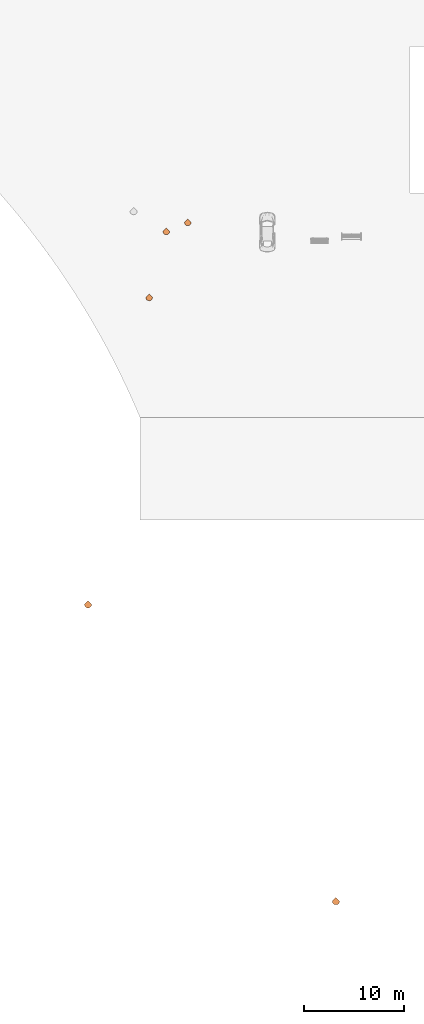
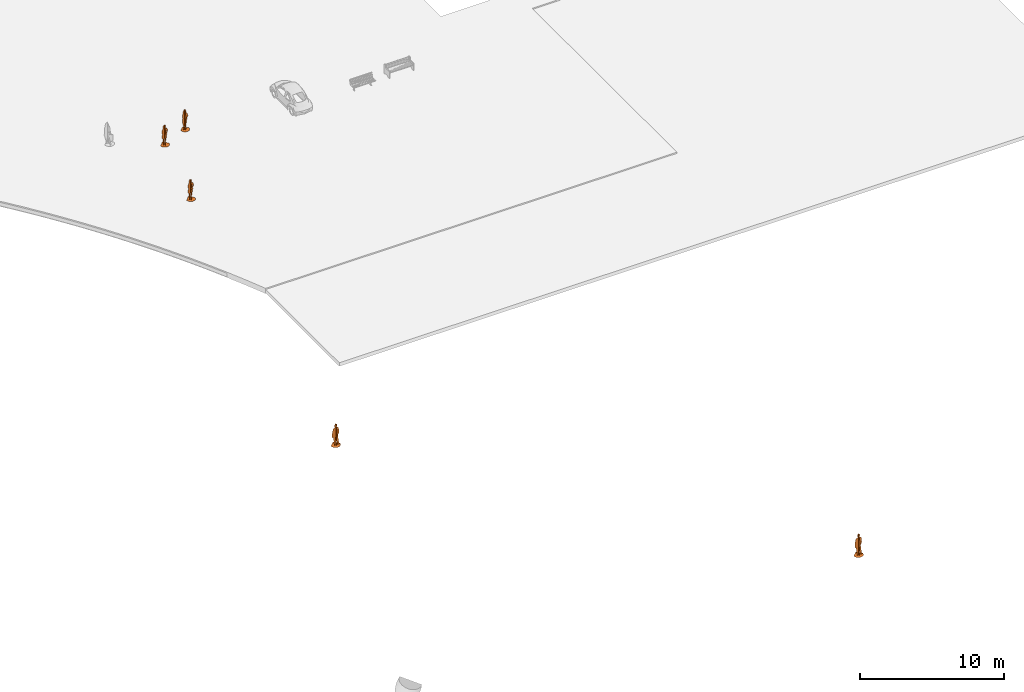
# One storey, part 2 of 6: 5 proxies.
"""IFC2X3 building model written with IfcOpenShell, lengths in millimetres."""

from ifc_helpers import new_model, entity, si_unit, converted_unit, derived_unit, direction, frame, origin, place, context, subcontext, project, spatial, face_set, surface_model, source, transform, mapped, type_object, type_shapes, element, save


model = new_model("IFC2X3")

# Units and contexts
model_context = context("Model", 3, precision=0.01, world=origin(), true_north=direction((6.12303176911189e-17, 1.0)))
body_context = subcontext(model_context, "Body", "Model", "MODEL_VIEW")
ifc_project = project(units=[si_unit("LENGTHUNIT", "METRE", prefix="MILLI"), si_unit("AREAUNIT", "SQUARE_METRE"), si_unit("VOLUMEUNIT", "CUBIC_METRE"), converted_unit("PLANEANGLEUNIT", "DEGREE", entity("IfcRatioMeasure", 0.0174532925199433), si_unit("PLANEANGLEUNIT", "RADIAN"), dimensions=[0, 0, 0, 0, 0, 0, 0]), si_unit("MASSUNIT", "GRAM", prefix="KILO"), derived_unit("MASSDENSITYUNIT", [(si_unit("MASSUNIT", "GRAM", prefix="KILO"), 1), (si_unit("LENGTHUNIT", "METRE"), -3)]), si_unit("TIMEUNIT", "SECOND"), si_unit("FREQUENCYUNIT", "HERTZ"), si_unit("THERMODYNAMICTEMPERATUREUNIT", "DEGREE_CELSIUS"), derived_unit("THERMALTRANSMITTANCEUNIT", [(si_unit("MASSUNIT", "GRAM", prefix="KILO"), 1), (si_unit("THERMODYNAMICTEMPERATUREUNIT", "KELVIN"), -1), (si_unit("TIMEUNIT", "SECOND"), -3)]), derived_unit("VOLUMETRICFLOWRATEUNIT", [(si_unit("LENGTHUNIT", "METRE"), 3), (si_unit("TIMEUNIT", "SECOND"), -1)]), si_unit("ELECTRICCURRENTUNIT", "AMPERE"), si_unit("ELECTRICVOLTAGEUNIT", "VOLT"), si_unit("POWERUNIT", "WATT"), si_unit("FORCEUNIT", "NEWTON", prefix="KILO"), si_unit("ILLUMINANCEUNIT", "LUX"), si_unit("LUMINOUSFLUXUNIT", "LUMEN"), si_unit("LUMINOUSINTENSITYUNIT", "CANDELA"), derived_unit("USERDEFINED", [(si_unit("MASSUNIT", "GRAM", prefix="KILO"), -1), (si_unit("LENGTHUNIT", "METRE"), -2), (si_unit("TIMEUNIT", "SECOND"), 3), (si_unit("LUMINOUSFLUXUNIT", "LUMEN"), 1)]), derived_unit("LINEARVELOCITYUNIT", [(si_unit("LENGTHUNIT", "METRE"), 1), (si_unit("TIMEUNIT", "SECOND"), -1)]), si_unit("PRESSUREUNIT", "PASCAL"), derived_unit("USERDEFINED", [(si_unit("LENGTHUNIT", "METRE"), -2), (si_unit("MASSUNIT", "GRAM", prefix="KILO"), 1), (si_unit("TIMEUNIT", "SECOND"), -2)])], contexts=[model_context])

# Site, building, storey
site_placement = place(None, origin())
site = spatial("IfcSite", under=ifc_project, at=site_placement, Name="表面", CompositionType="ELEMENT")
building_placement = place(site_placement, origin())
building = spatial("IfcBuilding", under=site, at=building_placement, CompositionType="ELEMENT")
storey_placement = place(building_placement, frame((0.0, 0.0, -450.0)))
storey = spatial("IfcBuildingStorey", under=building, at=storey_placement, Name="室外地坪", CompositionType="ELEMENT", Elevation=-449.999999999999)

# Proxies
building_element_proxy_type_1 = type_object("IfcBuildingElementProxyType", Name="佛罗伦萨", PredefinedType="NOTDEFINED")
shared_shape_1 = source(origin(), body_context, "Body", "SurfaceModel", [
    surface_model("IfcFaceBasedSurfaceModel", [(334.103734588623, 2.92082768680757e-05, 4.67019758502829e-05), (-4.38124185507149e-05, 334.103734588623, 4.67019758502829e-05), (-334.103734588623, 0.0, 4.67019758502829e-05), (325.2710978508, -76.5544387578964, 4.67019758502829e-05), (-325.2710978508, -76.5544841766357, 4.67019758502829e-05), (300.115892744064, -146.857487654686, 4.67019758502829e-05), (-300.115947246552, -146.857533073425, 4.67019758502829e-05), (-260.652404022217, -208.894880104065, 4.67019758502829e-05), (260.652494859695, -208.894916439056, 4.67019758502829e-05), (208.894916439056, -260.652404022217, 4.67019758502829e-05), (-208.894916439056, -260.652440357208, 4.67019758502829e-05), (-146.857496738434, -300.115892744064, 4.67019758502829e-05), (-76.5544569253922, -325.2710978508, 4.67019758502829e-05), (1.46041384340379e-05, -334.103734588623, 4.67019758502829e-05), (76.5544932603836, -325.2710978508, 4.67019758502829e-05), (146.857551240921, -300.115929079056, 4.67019758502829e-05), (-34.5734892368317, 23.0176311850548, 4.67019758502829e-05), (-34.5734892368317, -133.663343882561, 4.67019758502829e-05), (-34.5734892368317, -17.1567629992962, 11.34060729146), (-34.5734892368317, -7.40752614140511, 20.0668392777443), (-34.5734892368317, -40.8605963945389, 46.3929485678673), (-34.5734892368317, 182.104400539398, 14.0702019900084), (-34.5734892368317, 183.833491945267, 4.67019758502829e-05), (-34.5734892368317, 53.8343775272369, 4.67019758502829e-05), (-34.5734892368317, 116.402061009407, 46.2735109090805), (-34.5734892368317, 102.453384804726, 58.846121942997), (-34.5734892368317, -1.28144856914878, 37.4286860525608), (-34.5734892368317, 26.3932972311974, 13.6010264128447), (-34.5734892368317, -50.0892027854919, 122.586957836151), (-34.5734892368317, -131.24948322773, 427.655291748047), (-34.5734892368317, -105.442637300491, 516.402818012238), (-34.5734892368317, 6.93720714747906, 510.586203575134), (-34.5734892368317, 27.5086315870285, 14.8404334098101), (-34.5734892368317, 31.9761368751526, 546.343359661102), (-34.5734892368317, 91.6650171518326, 75.8743930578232), (-34.5734892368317, 35.7949490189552, 12.732675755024), (-34.5734892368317, 29.2465433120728, 15.4350464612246), (-34.5734892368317, 2.18396987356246, 60.40608304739), (-34.5734892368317, 77.6115508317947, 131.784479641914), (-34.5734892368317, 80.1656009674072, 167.852490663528), (-34.5734892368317, 46.4924156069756, 417.514522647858), (-34.5734892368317, 63.1105509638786, 464.540322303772), (-34.5734892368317, 172.124177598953, 470.170138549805), (-34.5734892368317, 60.1163569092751, 490.285117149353), (-34.5734892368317, 39.0456045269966, 536.462640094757), (-34.5734892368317, 142.807126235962, 650.462186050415), (-34.5734892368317, 128.973250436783, 798.847460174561), (-34.5734892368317, -133.63285882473, 904.877616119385), (-34.5734892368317, 141.193425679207, 856.817322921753), (-34.5734892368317, -118.536105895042, 971.948449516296), (-34.5734892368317, 173.915601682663, 893.003268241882), (-34.5734892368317, -119.060837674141, 980.967521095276), (-34.5734892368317, 178.651758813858, 899.369304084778), (-34.5734892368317, 179.690685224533, 910.463249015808), (-34.5734892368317, 177.523557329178, 924.436814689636), (-34.5734892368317, 165.536225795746, 953.629509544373), (-34.5734892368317, 156.698447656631, 965.152425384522), (-34.5734892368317, 146.61955704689, 972.161735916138), (-34.5734892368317, 138.746618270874, 982.832450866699), (-34.5734892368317, 140.313346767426, 1099.08451194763), (-34.5734892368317, -126.725131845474, 988.486538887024), (-34.5734892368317, 148.562725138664, 1190.0747428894), (-34.5734892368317, -167.324961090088, 1010.34596042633), (-34.5734892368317, -178.317004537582, 1020.16716327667), (-34.5734892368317, -183.833328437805, 1032.63943977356), (-34.5734892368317, -170.106204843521, 1269.4988193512), (-34.5734892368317, 150.713965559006, 1222.60313529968), (-34.5734892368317, 146.421286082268, 1226.99298362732), (-34.5734892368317, 137.44608900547, 1230.51849517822), (-34.5734892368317, 125.7357391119, 1233.78341217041), (-34.5734892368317, 113.23779194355, 1237.39220352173), (-34.5734892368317, 101.899548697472, 1241.9481754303), (-34.5734892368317, 93.668501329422, 1248.05550613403), (-34.5734892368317, 80.3273189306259, 1279.67232627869), (-34.5734892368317, -153.187361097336, 1316.49711341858), (-34.5734892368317, -126.340998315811, 1357.6331199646), (-34.5734892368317, 23.8043859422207, 1350.98948478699), (-34.5734892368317, 16.574430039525, 1366.51702537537), (-34.5734892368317, 16.4514894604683, 1382.4130027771), (-34.5734892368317, 33.6373976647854, 1398.61608352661), (-34.5734892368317, -116.717739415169, 1573.33957557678), (-34.5734892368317, 56.0061108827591, 1408.63596611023), (-34.5734892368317, 62.6127343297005, 1414.64708175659), (-34.5734892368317, 67.1167017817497, 1429.45504417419), (-34.5734892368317, -100.994671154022, 1620.51823654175), (-34.5734892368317, -71.8812047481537, 1654.75829772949), (-34.5734892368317, -25.3455981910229, 1670.94074020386), (-34.5734892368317, 21.8030932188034, 1659.26499938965), (-34.5734892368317, 73.4432687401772, 1587.85438728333), (-34.5734892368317, 51.3717598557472, 1640.00222167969), (-34.5734892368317, 67.2789738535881, 1615.4370059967), (105.609233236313, -12.6249686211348, 11.6815362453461), (114.408205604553, -12.6249686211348, 0.0), (-16.5201387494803, -12.6249686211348, 0.0), (53.9452719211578, -12.6249708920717, 51.2209333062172), (45.3586594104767, -12.6249708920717, 61.0228059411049), (41.8823772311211, -12.6249731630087, 71.4770233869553), (-7.76229532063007, -12.6250004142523, 535.424803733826), (98.6847921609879, -12.6249981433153, 508.016738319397), (101.421916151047, -12.6250299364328, 1032.21308498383), (-169.363572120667, -12.6250004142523, 543.059112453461), (-197.666423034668, -12.6250015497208, 555.605366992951), (-211.799299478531, -12.6250026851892, 579.965544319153), (-214.337861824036, -12.6250106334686, 724.012856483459), (-223.401171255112, -12.6250129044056, 753.79323348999), (-181.774696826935, -12.6250253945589, 962.608031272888), (99.0693253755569, -12.6250310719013, 1062.44561462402), (-47.7041784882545, -12.6249686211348, 0.0), (-142.567242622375, -12.6249686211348, 0.0), (-147.401531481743, -12.6249686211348, 9.75572265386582), (-144.35303478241, -12.6249697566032, 20.3925415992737), (-104.832245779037, -12.6249731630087, 72.3575519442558), (125.442179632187, -12.6250004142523, 551.841243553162), (128.661723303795, -12.6250015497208, 575.450340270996), (-100.995579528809, -12.6249731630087, 87.8546937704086), (-51.4360046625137, -12.6250004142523, 536.789618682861), (115.687669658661, -12.6250299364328, 1036.93815994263), (109.094422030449, -12.6250356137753, 1123.28078212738), (-189.370853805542, -12.6250253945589, 963.954678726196), (-195.959895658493, -12.6250253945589, 967.615647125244), (-201.589493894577, -12.6250265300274, 973.022439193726), (-206.307356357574, -12.6250265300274, 979.606339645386), (-210.161390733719, -12.6250265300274, 986.799287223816), (-213.199141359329, -12.6250265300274, 994.032348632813), (-215.468406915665, -12.6250276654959, 1000.73709926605), (-216.784605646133, -12.6250412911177, 1226.30160140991), (-203.587500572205, -12.6250458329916, 1292.64086608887), (115.069920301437, -12.6250356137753, 1135.93800373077), (-180.592919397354, -12.6250481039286, 1341.59877891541), (-145.607418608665, -12.6250481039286, 1362.49532318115), (-152.385520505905, -12.6250571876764, 1500.63747253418), (-142.660614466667, -12.6250617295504, 1563.79684410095), (-122.536988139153, -12.6250651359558, 1620.24906692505), (-89.370625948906, -12.6250685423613, 1660.83583374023), (-40.5175804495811, -12.6250685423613, 1676.4), (120.69973654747, -12.6250117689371, 747.651602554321), (126.837515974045, -12.6250129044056, 756.021949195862), (151.42649474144, -12.6250129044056, 773.583958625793), (162.016945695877, -12.6250151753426, 790.34725227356), (11.7229672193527, -12.6250662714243, 1659.22023468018), (43.4644935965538, -12.6250651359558, 1619.48341598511), (59.5218846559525, -12.6250617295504, 1565.89308242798), (63.2074382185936, -12.6250503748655, 1387.06170158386), (114.108105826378, -12.6250503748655, 1371.97613983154), (153.432458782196, -12.6250469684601, 1333.9056438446), (202.722727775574, -12.6250412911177, 1222.39965934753), (223.40113492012, -12.6250333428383, 1092.69078884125), (219.164420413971, -12.6250310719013, 1062.14483356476), (160.137554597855, -12.6250197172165, 858.767421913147), (166.230750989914, -12.625016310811, 817.479898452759), (139.80697324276, -12.6250219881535, 917.995928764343), (123.361192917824, -12.6250310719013, 1049.37453746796), (125.934627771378, -12.6250310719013, 1066.91409187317)], [face_set([[[0, 1, 2]], [[3, 0, 2]], [[3, 2, 4]], [[5, 3, 4]], [[5, 4, 6]], [[5, 6, 7]], [[8, 5, 7]], [[9, 8, 7]], [[9, 7, 10]], [[9, 10, 11]], [[9, 11, 12]], [[9, 12, 13]], [[9, 13, 14]], [[9, 14, 15]], [[16, 17, 18]], [[16, 18, 19]], [[20, 18, 17]], [[21, 22, 23]], [[24, 21, 23]], [[25, 24, 23]], [[16, 19, 26]], [[27, 16, 26]], [[28, 20, 17]], [[28, 17, 29]], [[28, 29, 30]], [[31, 28, 30]], [[32, 27, 26]], [[33, 31, 30]], [[34, 25, 23]], [[34, 23, 35]], [[34, 35, 36]], [[32, 26, 37]], [[36, 32, 37]], [[34, 36, 37]], [[38, 34, 37]], [[39, 38, 37]], [[39, 37, 40]], [[39, 40, 41]], [[42, 39, 41]], [[42, 41, 43]], [[42, 43, 44]], [[45, 42, 44]], [[45, 44, 33]], [[45, 33, 30]], [[46, 45, 30]], [[46, 30, 47]], [[48, 46, 47]], [[48, 47, 49]], [[50, 48, 49]], [[50, 49, 51]], [[52, 50, 51]], [[53, 52, 51]], [[54, 53, 51]], [[55, 54, 51]], [[56, 55, 51]], [[57, 56, 51]], [[58, 57, 51]], [[59, 58, 51]], [[59, 51, 60]], [[61, 59, 60]], [[61, 60, 62]], [[61, 62, 63]], [[61, 63, 64]], [[61, 64, 65]], [[66, 61, 65]], [[67, 66, 65]], [[68, 67, 65]], [[69, 68, 65]], [[70, 69, 65]], [[71, 70, 65]], [[72, 71, 65]], [[73, 72, 65]], [[73, 65, 74]], [[73, 74, 75]], [[76, 73, 75]], [[77, 76, 75]], [[78, 77, 75]], [[79, 78, 75]], [[79, 75, 80]], [[81, 79, 80]], [[82, 81, 80]], [[83, 82, 80]], [[83, 80, 84]], [[83, 84, 85]], [[83, 85, 86]], [[83, 86, 87]], [[88, 83, 87]], [[88, 87, 89]], [[88, 89, 90]], [[91, 92, 93]], [[94, 91, 93]], [[95, 94, 93]], [[96, 95, 93]], [[96, 93, 97]], [[98, 96, 97]], [[99, 100, 101]], [[99, 101, 102]], [[99, 102, 103]], [[99, 103, 104]], [[99, 104, 105]], [[106, 99, 105]], [[107, 108, 109]], [[107, 109, 110]], [[107, 110, 111]], [[112, 98, 97]], [[113, 112, 97]], [[107, 111, 114]], [[115, 107, 114]], [[115, 114, 100]], [[115, 100, 99]], [[97, 115, 99]], [[97, 99, 116]], [[117, 106, 105]], [[117, 105, 118]], [[117, 118, 119]], [[117, 119, 120]], [[117, 120, 121]], [[117, 121, 122]], [[117, 122, 123]], [[117, 123, 124]], [[117, 124, 125]], [[117, 125, 126]], [[127, 117, 126]], [[127, 126, 128]], [[127, 128, 129]], [[127, 129, 130]], [[127, 130, 131]], [[127, 131, 132]], [[127, 132, 133]], [[127, 133, 134]], [[135, 113, 97]], [[135, 97, 116]], [[136, 135, 116]], [[137, 136, 116]], [[138, 137, 116]], [[134, 139, 140]], [[134, 140, 141]], [[142, 143, 144]], [[142, 144, 145]], [[142, 145, 146]], [[142, 146, 147]], [[148, 149, 138]], [[150, 148, 138]], [[150, 138, 116]], [[147, 150, 116]], [[147, 116, 151]], [[147, 151, 152]], [[134, 141, 142]], [[127, 134, 142]], [[127, 142, 147]], [[127, 147, 152]]])]),
])
type_shapes(building_element_proxy_type_1, [shared_shape_1])
for number, where, name in (
    (1, (-27081.8388510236, -33627.8459129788, 100.0), "RPC 女性:佛罗伦萨"),
    (2, (-24939.8982565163, -32727.8459129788, 100.0), "RPC 女性:佛罗伦萨"),
    (3, (-28809.9924766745, -40236.868426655, 100.0), "RPC 女性:佛罗伦萨"),
):
    element("IfcBuildingElementProxy", number, at=place(storey_placement, frame(where)), inside=storey, type_object=building_element_proxy_type_1, Name=name, ObjectType="佛罗伦萨", context=body_context, shape_type="MappedRepresentation", body=[
        mapped(shared_shape_1, transform((0.0, 0.0, 0.0), scale=1.0)),
    ])
building_element_proxy_type_2 = type_object("IfcBuildingElementProxyType", Name="Alex", PredefinedType="NOTDEFINED")
shared_shape_2 = source(origin(), body_context, "Body", "SurfaceModel", [
    surface_model("IfcFaceBasedSurfaceModel", [(297.171559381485, -54.2191877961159, 23.3147991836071), (300.036973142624, -54.2191877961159, 0.0), (131.828027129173, -54.2191877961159, 0.0), (26.3020782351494, -54.2191877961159, 0.0), (-117.14976246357, -54.2191877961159, 0.0), (-117.165113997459, -54.2191877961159, 5.9668840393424), (-116.225654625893, -54.2191877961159, 11.2908260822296), (-114.198943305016, -54.2191877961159, 16.0246055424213), (-110.94873290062, -54.2191877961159, 20.2200412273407), (-106.342582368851, -54.2191877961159, 23.9299119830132), (-92.5231678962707, -54.2191877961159, 30.1059907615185), (122.328797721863, -54.2191877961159, 103.061659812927), (25.5305478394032, -54.2191877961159, 136.353568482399), (-131.470091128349, -54.2191877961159, 129.020195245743), (10.7735940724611, -54.2191877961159, 177.672657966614), (9.46371990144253, -54.2191877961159, 194.821938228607), (-175.160383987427, -54.2191877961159, 475.757769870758), (20.19221316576, -54.2191877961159, 275.828766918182), (17.9659057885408, -54.2191877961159, 301.695174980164), (15.1043355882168, -54.2191877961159, 310.801922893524), (11.5067399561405, -54.2191877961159, 320.053574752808), (7.63181579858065, -54.2191877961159, 329.409798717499), (3.94401627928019, -54.2191877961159, 338.830335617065), (0.902037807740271, -54.2191877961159, 348.275834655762), (-6.93417544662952, -54.2191877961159, 413.780084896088), (-9.31114132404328, -54.2191877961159, 418.997535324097), (-28.5399003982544, -54.2191877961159, 446.895432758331), (-30.5454942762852, -54.2191877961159, 452.147401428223), (-32.6518496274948, -54.2191877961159, 465.911168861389), (-222.382065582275, -54.2191877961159, 767.940262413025), (-12.8367652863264, -54.2191877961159, 700.06003074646), (271.669791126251, -54.2191877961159, 73.3510278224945), (276.394938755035, -54.2191877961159, 74.3758971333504), (-230.165493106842, -54.2191877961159, 699.513043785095), (-235.713991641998, -54.2191877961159, 696.803107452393), (-252.813365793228, -54.2191877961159, 693.070195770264), (-271.567108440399, -54.2191877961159, 693.422354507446), (-279.184539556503, -54.2191877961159, 695.817557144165), (-284.35973238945, -54.2191877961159, 700.06003074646), (-288.794127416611, -54.2191877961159, 709.015152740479), (-300.037917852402, -54.2191877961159, 1027.7789806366), (-230.605964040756, -54.2191877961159, 1391.15534706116), (-226.423007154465, -54.2191877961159, 1402.40291633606), (-221.691137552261, -54.2191877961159, 1413.47113609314), (-216.458371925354, -54.2191877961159, 1423.88300056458), (-210.769765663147, -54.2191877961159, 1433.16630020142), (-204.673335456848, -54.2191877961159, 1440.84606399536), (-189.6342461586, -54.2191877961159, 1451.6244758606), (-89.8842301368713, -54.2191877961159, 1494.98185844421), (-71.7475101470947, -54.2191877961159, 1507.21207122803), (-63.0092580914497, -54.2191877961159, 1520.53247909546), (267.325615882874, -54.2191877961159, 73.249308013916), (263.4036714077, -54.2191877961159, 74.7338331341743), (259.947141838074, -54.2191877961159, 78.4667311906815), (256.99632267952, -54.2191877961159, 85.1120650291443), (251.636875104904, -54.2191877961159, 116.832131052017), (238.026659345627, -54.2191877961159, 154.062289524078), (150.444550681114, -54.2191877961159, 791.592888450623), (152.438624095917, -54.2191877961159, 812.210161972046), (158.305707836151, -54.2191877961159, 826.766613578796), (168.183030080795, -54.2191877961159, 840.356627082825), (180.684883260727, -54.2191877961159, 853.514908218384), (194.421780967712, -54.2191877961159, 866.778706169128), (208.00703458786, -54.2191877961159, 880.683526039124), (220.053083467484, -54.2191877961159, 895.763855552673), (229.173257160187, -54.2191877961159, 912.556144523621), (242.364130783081, -54.2191877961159, 957.355735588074), (254.108853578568, -54.2191877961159, 1069.05298748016), (217.886264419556, -54.2191877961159, 1383.19057159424), (202.611124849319, -54.2191877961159, 1417.23471450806), (187.949174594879, -54.2191877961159, 1431.61944694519), (69.4089310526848, -54.2191877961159, 1508.79351539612), (60.9470474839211, -54.2191877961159, 1523.48331642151), (-61.6725164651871, -54.2191877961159, 1534.69164390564), (60.5372932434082, -54.2191877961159, 1533.94881134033), (62.4047028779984, -54.2191877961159, 1543.96622314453), (-63.8671544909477, -54.2191877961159, 1545.32602386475), (-68.5855801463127, -54.2191877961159, 1553.4050365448), (81.6065922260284, -54.2191877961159, 1585.46194610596), (90.9474828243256, -54.2191877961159, 1642.29321556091), (-87.7951498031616, -54.2191877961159, 1572.00622673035), (-92.5231678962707, -54.2191877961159, 1579.5583820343), (-95.9144489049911, -54.2191877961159, 1589.69090309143), (-97.2060851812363, -54.2191877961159, 1598.30738296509), (-95.4739870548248, -54.2191877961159, 1641.53701171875), (91.0789519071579, -54.2191877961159, 1685.13609466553), (-96.3318834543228, -54.2191877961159, 1644.51473693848), (88.7451644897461, -54.2191877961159, 1704.59900550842), (81.7812454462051, -54.2191877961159, 1728.06065483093), (63.2558818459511, -54.2191877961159, 1755.99020004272), (52.0926824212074, -54.2191877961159, 1765.49339904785), (45.7764981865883, -54.2191877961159, 1768.29642562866), (-13.1083364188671, -54.2191877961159, 1777.99903106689), (-23.8377891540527, -54.2191877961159, 1776.43299293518), (-41.9073348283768, -54.2191877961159, 1768.68215789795), (-92.9406024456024, -54.2191877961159, 1726.0511844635), (-97.9843352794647, -54.2191877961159, 1647.88778686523), (-100.590653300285, -54.2191877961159, 1713.72214050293), (-105.973128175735, -54.2191877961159, 1699.56878929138), (-108.423024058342, -54.2191877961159, 1683.42994880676), (-107.279162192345, -54.2191877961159, 1665.14734382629), (-100.120442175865, -54.2191877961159, 1651.49788627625), (-102.430230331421, -54.2191877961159, 1655.18661460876), (-104.599919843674, -54.2191877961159, 1658.79671401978), (-106.320508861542, -54.2191877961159, 1662.16976394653), (0.0, 224.300335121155, 9.81014111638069), (0.0, 227.680107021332, 0.0), (0.0, -172.949436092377, 0.0), (0.0, 221.081781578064, 17.6607486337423), (0.0, 217.684750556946, 23.8550619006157), (0.0, 213.764731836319, 28.6934384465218), (0.0, 208.982011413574, 32.4771986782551), (0.0, 202.993060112, 35.5086224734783), (0.0, 195.457201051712, 38.0899851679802), (0.0, 185.196035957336, 40.8613548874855), (0.0, 171.015815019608, 44.676778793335), (0.0, 154.809845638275, 49.6658183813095), (0.0, 138.475277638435, 55.9560912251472), (0.0, 123.907362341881, 63.6781126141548), (0.0, 113.001341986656, 72.9595046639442), (0.0, -171.256679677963, 45.1949748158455), (0.0, 107.654375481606, 83.9307781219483), (0.0, 104.74098136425, 115.280427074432), (0.0, -210.042375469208, 781.404629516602), (0.0, -219.944641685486, 780.446911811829), (0.0, -227.680107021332, 923.839322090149), (0.0, -150.874457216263, 290.639454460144), (0.0, 148.972502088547, 491.215256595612), (0.0, -156.013187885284, 413.706215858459), (0.0, -155.015192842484, 426.285789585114), (0.0, -142.9451628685, 479.870672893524), (0.0, -142.184190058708, 491.544378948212), (0.0, 150.526122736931, 510.814423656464), (0.0, -143.210017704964, 503.020422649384), (0.0, 150.262221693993, 530.943282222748), (0.0, 142.992180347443, 588.389666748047), (0.0, -144.047757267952, 505.244814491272), (0.0, 137.167326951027, 618.123316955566), (0.0, -145.711727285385, 508.173560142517), (0.0, -147.87566678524, 511.529314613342), (0.0, -150.214241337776, 515.035750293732), (0.0, 134.779800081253, 638.284804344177), (0.0, -152.40025434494, 518.414541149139), (0.0, -154.109325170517, 521.388414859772), (0.0, -155.015192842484, 523.679953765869), (0.0, -156.638858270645, 713.29599609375), (0.0, -149.112609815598, 780.446911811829), (0.0, 140.119099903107, 768.640801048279), (0.0, 138.189312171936, 779.986329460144), (0.0, 123.662664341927, 824.559480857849), (0.0, 121.934399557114, 836.203464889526), (0.0, 122.410369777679, 848.327216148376), (0.0, 123.45730805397, 852.899756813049), (0.0, 61.795346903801, 1563.4858165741), (0.0, 54.5483373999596, 1508.47783699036), (0.0, -4.49675438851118, 1482.86573753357), (0.0, 125.117444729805, 858.12872543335), (0.0, 127.066417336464, 863.969865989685), (0.0, 128.979890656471, 870.382047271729), (0.0, 130.533502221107, 877.319051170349), (0.0, 131.40387969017, 884.738801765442), (0.0, 131.264734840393, 892.597115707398), (0.0, 4.84413507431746, 1466.16268730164), (0.0, -210.508753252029, 1326.63268661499), (0.0, -200.024963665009, 1381.46611289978), (0.0, -183.920714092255, 1432.73057098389), (0.0, -173.361111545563, 1455.01961746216), (0.0, -160.917794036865, 1474.01133613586), (0.0, -124.733592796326, 1511.6867980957), (0.0, -116.986627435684, 1522.76359291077), (0.0, -111.113784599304, 1535.60030937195), (0.0, -107.793520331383, 1550.74589653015), (0.0, -109.484360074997, 1573.61746559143), (0.0, 72.2378735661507, 1580.25993804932), (0.0, 51.5783288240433, 1695.36177864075), (0.0, -138.180673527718, 1647.64594116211), (0.0, -144.365388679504, 1674.28297805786), (0.0, -143.232091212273, 1701.97736320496), (0.0, -131.404833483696, 1730.77836685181), (0.0, -113.808378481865, 1751.5875617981), (0.0, -93.3148528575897, 1763.99538002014), (0.0, -70.4587488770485, 1769.80781593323), (0.0, -45.7764981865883, 1770.83173599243), (0.0, 33.8705593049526, 1763.24310035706), (0.0, 55.1979979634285, 1700.16570053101), (0.0, 62.1926291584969, 1712.28647232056), (0.0, 65.1444021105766, 1720.01913986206), (0.0, 66.766150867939, 1728.29392547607), (0.0, 66.3352859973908, 1736.6809135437), (0.0, 63.7241717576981, 1742.80801048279), (0.0, 58.8829156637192, 1748.8843837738), (0.0, 52.7442596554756, 1754.47212409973), (0.0, 46.2419130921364, 1759.13869972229), (0.0, 40.3066967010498, 1762.4456199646), (0.0, 35.872315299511, 1763.95889968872), (361.244083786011, 0.0, 0.0), (0.0, 361.244083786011, 0.0), (-361.244083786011, 0.0, 0.0), (351.693976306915, -82.7734813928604, 0.0), (-351.693976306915, -82.7734813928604, 0.0), (324.495636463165, -158.787437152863, 0.0), (-324.495636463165, -158.787437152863, 0.0), (-281.826347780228, -225.863539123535, 0.0), (281.826347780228, -225.863539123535, 0.0), (225.864502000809, -281.826347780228, 0.0), (-225.864502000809, -281.826347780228, 0.0), (-158.787437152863, -324.494655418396, 0.0), (-82.7734813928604, -351.693976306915, 0.0), (0.0, -361.244083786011, 0.0), (82.7734813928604, -351.693976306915, 0.0), (158.787437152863, -324.495636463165, 0.0)], [face_set([[[0, 1, 2]], [[3, 4, 5]], [[3, 5, 6]], [[3, 6, 7]], [[3, 7, 8]], [[3, 8, 9]], [[3, 9, 10]], [[0, 2, 11]], [[12, 3, 10]], [[12, 10, 13]], [[14, 12, 13]], [[15, 14, 13]], [[15, 13, 16]], [[17, 15, 16]], [[18, 17, 16]], [[19, 18, 16]], [[20, 19, 16]], [[21, 20, 16]], [[22, 21, 16]], [[23, 22, 16]], [[24, 23, 16]], [[25, 24, 16]], [[26, 25, 16]], [[27, 26, 16]], [[28, 27, 16]], [[28, 16, 29]], [[30, 28, 29]], [[31, 32, 0]], [[29, 33, 34]], [[29, 34, 35]], [[29, 35, 36]], [[29, 36, 37]], [[29, 37, 38]], [[29, 38, 39]], [[29, 39, 40]], [[30, 29, 40]], [[30, 40, 41]], [[30, 41, 42]], [[30, 42, 43]], [[30, 43, 44]], [[30, 44, 45]], [[30, 45, 46]], [[30, 46, 47]], [[30, 47, 48]], [[30, 48, 49]], [[30, 49, 50]], [[51, 31, 0]], [[51, 0, 11]], [[52, 51, 11]], [[53, 52, 11]], [[54, 53, 11]], [[55, 54, 11]], [[56, 55, 11]], [[57, 56, 11]], [[57, 11, 30]], [[57, 30, 50]], [[58, 57, 50]], [[59, 58, 50]], [[60, 59, 50]], [[61, 60, 50]], [[62, 61, 50]], [[63, 62, 50]], [[64, 63, 50]], [[65, 64, 50]], [[66, 65, 50]], [[67, 66, 50]], [[68, 67, 50]], [[69, 68, 50]], [[70, 69, 50]], [[71, 70, 50]], [[72, 71, 50]], [[72, 50, 73]], [[74, 72, 73]], [[75, 74, 73]], [[75, 73, 76]], [[75, 76, 77]], [[78, 75, 77]], [[79, 78, 77]], [[79, 77, 80]], [[79, 80, 81]], [[79, 81, 82]], [[79, 82, 83]], [[79, 83, 84]], [[85, 79, 84]], [[85, 84, 86]], [[87, 85, 86]], [[88, 87, 86]], [[89, 88, 86]], [[90, 89, 86]], [[91, 90, 86]], [[92, 91, 86]], [[93, 92, 86]], [[94, 93, 86]], [[95, 94, 86]], [[95, 86, 96]], [[97, 95, 96]], [[98, 97, 96]], [[99, 98, 96]], [[100, 99, 96]], [[100, 96, 101]], [[100, 101, 102]], [[100, 102, 103]], [[100, 103, 104]], [[105, 106, 107]], [[108, 105, 107]], [[109, 108, 107]], [[110, 109, 107]], [[111, 110, 107]], [[112, 111, 107]], [[113, 112, 107]], [[114, 113, 107]], [[115, 114, 107]], [[116, 115, 107]], [[117, 116, 107]], [[118, 117, 107]], [[119, 118, 107]], [[119, 107, 120]], [[121, 119, 120]], [[122, 121, 120]], [[123, 124, 125]], [[122, 120, 126]], [[127, 122, 126]], [[127, 126, 128]], [[127, 128, 129]], [[127, 129, 130]], [[127, 130, 131]], [[132, 127, 131]], [[132, 131, 133]], [[134, 132, 133]], [[135, 134, 133]], [[135, 133, 136]], [[137, 135, 136]], [[137, 136, 138]], [[137, 138, 139]], [[137, 139, 140]], [[141, 137, 140]], [[141, 140, 142]], [[141, 142, 143]], [[141, 143, 144]], [[141, 144, 145]], [[141, 145, 146]], [[147, 141, 146]], [[148, 147, 146]], [[149, 148, 146]], [[150, 149, 146]], [[151, 150, 146]], [[152, 151, 146]], [[153, 154, 155]], [[156, 152, 146]], [[157, 156, 146]], [[158, 157, 146]], [[159, 158, 146]], [[160, 159, 146]], [[161, 160, 146]], [[146, 123, 125]], [[162, 161, 146]], [[162, 146, 125]], [[162, 125, 163]], [[162, 163, 164]], [[162, 164, 165]], [[162, 165, 166]], [[162, 166, 167]], [[155, 162, 167]], [[155, 167, 168]], [[155, 168, 169]], [[155, 169, 170]], [[153, 155, 170]], [[153, 170, 171]], [[153, 171, 172]], [[173, 153, 172]], [[174, 173, 172]], [[174, 172, 175]], [[174, 175, 176]], [[174, 176, 177]], [[174, 177, 178]], [[174, 178, 179]], [[174, 179, 180]], [[174, 180, 181]], [[174, 181, 182]], [[174, 182, 183]], [[184, 174, 183]], [[185, 184, 183]], [[186, 185, 183]], [[187, 186, 183]], [[188, 187, 183]], [[189, 188, 183]], [[190, 189, 183]], [[191, 190, 183]], [[192, 191, 183]], [[193, 192, 183]], [[194, 193, 183]], [[195, 196, 197]], [[198, 195, 197]], [[198, 197, 199]], [[200, 198, 199]], [[200, 199, 201]], [[200, 201, 202]], [[203, 200, 202]], [[204, 203, 202]], [[204, 202, 205]], [[204, 205, 206]], [[204, 206, 207]], [[204, 207, 208]], [[204, 208, 209]], [[204, 209, 210]]])]),
])
type_shapes(building_element_proxy_type_2, [shared_shape_2])
for number, where, name in (
    (4, (-34917.7251784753, -70927.8459129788, 0.0), "RPC 男性:Alex"),
    (5, (-10118.9243087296, -100627.845912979, 0.0), "RPC 男性:Alex"),
):
    element("IfcBuildingElementProxy", number, at=place(storey_placement, frame(where)), inside=storey, type_object=building_element_proxy_type_2, Name=name, ObjectType="Alex", context=body_context, shape_type="MappedRepresentation", body=[
        mapped(shared_shape_2, transform((0.0, 0.0, 0.0), scale=1.0)),
    ])

save(model, "model.ifc")
